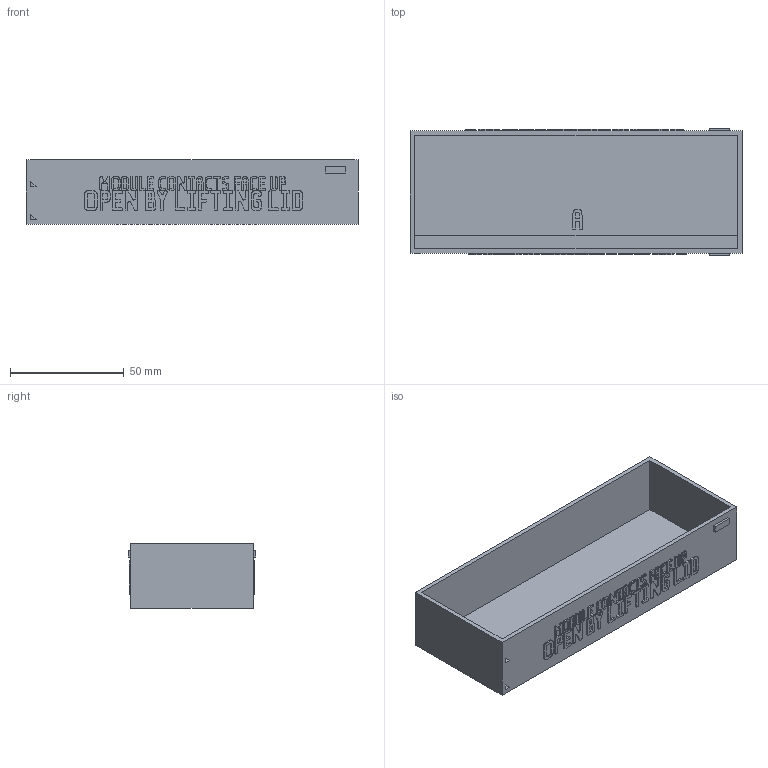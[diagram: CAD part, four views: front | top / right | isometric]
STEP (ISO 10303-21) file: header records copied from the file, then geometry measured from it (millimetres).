
FILE_DESCRIPTION(('Open CASCADE Model'),'2;1');
FILE_NAME('Open CASCADE Shape Model','2026-11-03T16:23:25',('Author'),( 'Open CASCADE'),'Open CASCADE STEP processor 8.0','build123d', 'Unknown');
FILE_SCHEMA(('AUTOMOTIVE_DESIGN { 1 0 10303 214 1 1 1 1 }'));
Products named in the file (1): COMPOUND
Bounding box: 146 x 56 x 28.4 mm (x, y, z)
Volume: 36286.4 mm3; surface area: 38856.2 mm2
Topology: 1 solids, 1 shells, 5699 faces, 16800 edges, 11200 vertices
Faces by surface type: plane 5699
Entity records: 404202 total; most frequent: CARTESIAN_POINT 67310, DIRECTION 61790, LINE 50390, VECTOR 50390, ORIENTED_EDGE 33600, PCURVE 33600, DEFINITIONAL_REPRESENTATION 33600, EDGE_CURVE 16800
